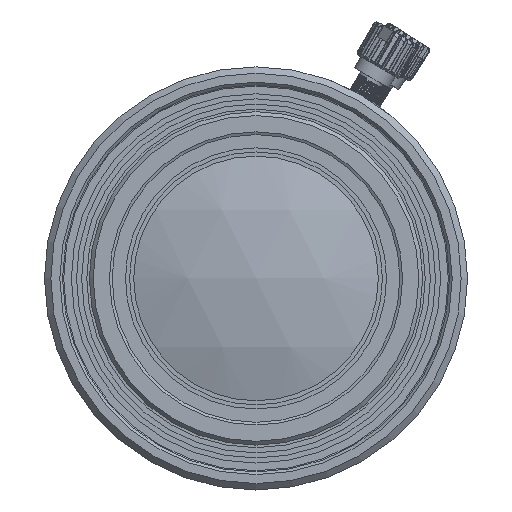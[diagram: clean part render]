
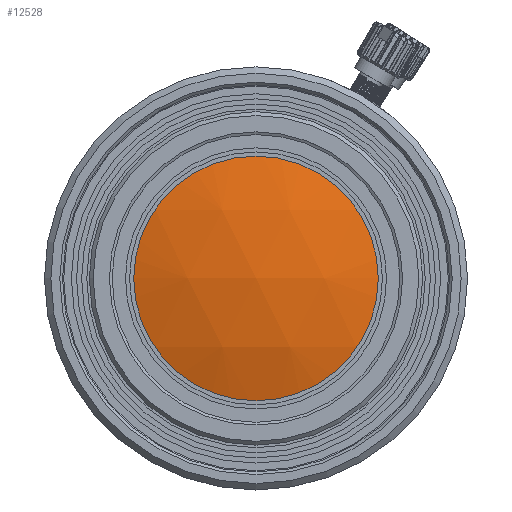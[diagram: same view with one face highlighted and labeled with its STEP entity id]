
A CAD part, left-side view. The second image highlights one B-rep face of the part: STEP entity #12528.
In plain terms, the highlighted spherical face has radius 33.339 mm.
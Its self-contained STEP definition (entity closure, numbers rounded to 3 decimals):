
#736=SPHERICAL_SURFACE('',#13245,33.339);
#2154=FACE_OUTER_BOUND('',#2849,.T.);
#2849=EDGE_LOOP('',(#7740));
#3652=CIRCLE('',#13244,10.5);
#4518=VERTEX_POINT('',#18123);
#5734=EDGE_CURVE('',#4518,#4518,#3652,.T.);
#7740=ORIENTED_EDGE('',*,*,#5734,.T.);
#12528=ADVANCED_FACE('',(#2154),#736,.T.);
#13244=AXIS2_PLACEMENT_3D('',#18124,#14543,#14544);
#13245=AXIS2_PLACEMENT_3D('',#18125,#14545,#14546);
#14543=DIRECTION('center_axis',(-1.,0.,0.));
#14544=DIRECTION('ref_axis',(0.,0.,-1.));
#14545=DIRECTION('center_axis',(0.,0.,1.));
#14546=DIRECTION('ref_axis',(-1.,0.,0.));
#18123=CARTESIAN_POINT('',(-33.819,-10.5,0.));
#18124=CARTESIAN_POINT('Origin',(-33.819,0.,0.));
#18125=CARTESIAN_POINT('Origin',(-2.176,0.,0.));
